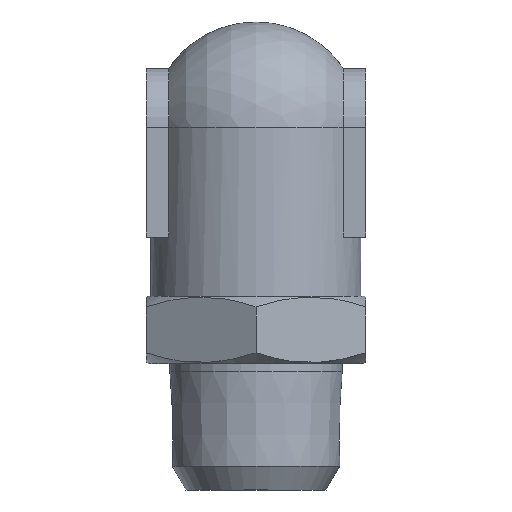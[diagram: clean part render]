
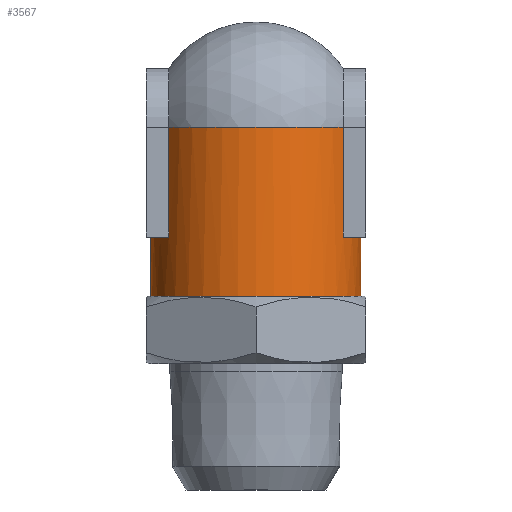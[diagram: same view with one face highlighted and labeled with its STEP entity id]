
A CAD part, left-side view. The second image highlights one B-rep face of the part: STEP entity #3567.
In plain terms, the highlighted cylindrical face has radius 6.25 mm (diameter 12.5 mm), a full revolution.
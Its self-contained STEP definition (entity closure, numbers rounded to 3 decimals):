
#25=(
BOUNDED_CURVE()
B_SPLINE_CURVE(3,(#2653,#2654,#2655,#2656,#2657,#2658,#2659,#2660,#2661,
#2662,#2663,#2664,#2665,#2666,#2667,#2668,#2669,#2670,#2671,#2672,#2673,
#2674,#2675,#2676,#2677,#2678,#2679,#2680,#2681,#2682,#2683,#2684,#2685,
#2686,#2687,#2688,#2689,#2690,#2691,#2692),.UNSPECIFIED.,.U.,.U.)
B_SPLINE_CURVE_WITH_KNOTS((4,1,1,1,1,1,1,1,1,1,1,1,1,1,1,1,1,1,1,1,1,1,
1,1,1,1,1,1,1,1,1,1,1,1,1,1,1,4),(0.216,0.225,0.246,
0.266,0.286,0.305,0.323,
0.34,0.357,0.373,0.388,
0.403,0.418,0.432,0.446,0.459,
0.473,0.486,0.5,0.5,
0.514,0.527,0.541,0.554,
0.568,0.582,0.597,0.612,
0.627,0.643,0.66,0.677,
0.695,0.714,0.734,0.754,
0.775,0.784),.UNSPECIFIED.)
CURVE()
GEOMETRIC_REPRESENTATION_ITEM()
RATIONAL_B_SPLINE_CURVE((1.,1.,1.,1.,1.,1.,1.,1.,1.,1.,1.,1.,1.,1.,1.,1.,
1.,1.,1.,1.,1.,1.,1.,1.,1.,1.,1.,1.,1.,1.,1.,1.,1.,1.,1.,1.,1.,1.,1.,1.))
REPRESENTATION_ITEM('')
);
#32=VECTOR('',#2296,1.);
#33=VECTOR('',#2299,1.);
#34=VECTOR('',#2304,1.);
#35=VECTOR('',#2307,1.);
#72=LINE('',#2638,#32);
#73=LINE('',#2642,#33);
#74=LINE('',#2648,#34);
#75=LINE('',#2652,#35);
#1461=ORIENTED_EDGE('',*,*,#1853,.F.);
#1462=ORIENTED_EDGE('',*,*,#1854,.F.);
#1463=ORIENTED_EDGE('',*,*,#1855,.F.);
#1464=ORIENTED_EDGE('',*,*,#1856,.F.);
#1465=ORIENTED_EDGE('',*,*,#1857,.F.);
#1466=ORIENTED_EDGE('',*,*,#1858,.F.);
#1467=ORIENTED_EDGE('',*,*,#1859,.F.);
#1468=ORIENTED_EDGE('',*,*,#1860,.F.);
#1469=ORIENTED_EDGE('',*,*,#1861,.F.);
#1470=ORIENTED_EDGE('',*,*,#1851,.T.);
#1689=CIRCLE('',#3403,6.25);
#1691=CIRCLE('',#3406,6.25);
#1692=CIRCLE('',#3407,6.25);
#1693=CIRCLE('',#3408,6.25);
#1694=CIRCLE('',#3409,6.25);
#1752=VERTEX_POINT('',#2631);
#1754=VERTEX_POINT('',#2636);
#1755=VERTEX_POINT('',#2637);
#1756=VERTEX_POINT('',#2639);
#1757=VERTEX_POINT('',#2641);
#1758=VERTEX_POINT('',#2643);
#1759=VERTEX_POINT('',#2645);
#1760=VERTEX_POINT('',#2647);
#1761=VERTEX_POINT('',#2649);
#1762=VERTEX_POINT('',#2651);
#1851=EDGE_CURVE('',#1752,#1752,#1689,.T.);
#1853=EDGE_CURVE('',#1754,#1755,#72,.T.);
#1854=EDGE_CURVE('',#1756,#1754,#1691,.T.);
#1855=EDGE_CURVE('',#1757,#1756,#73,.T.);
#1856=EDGE_CURVE('',#1758,#1757,#1692,.T.);
#1857=EDGE_CURVE('',#1759,#1758,#1693,.T.);
#1858=EDGE_CURVE('',#1760,#1759,#74,.T.);
#1859=EDGE_CURVE('',#1761,#1760,#1694,.T.);
#1860=EDGE_CURVE('',#1762,#1761,#75,.T.);
#1861=EDGE_CURVE('',#1755,#1762,#25,.T.);
#1989=EDGE_LOOP('',(#1461,#1462,#1463,#1464,#1465,#1466,#1467,#1468,#1469));
#1990=EDGE_LOOP('',(#1470));
#2123=FACE_BOUND('',#1989,.T.);
#2124=FACE_BOUND('',#1990,.T.);
#2290=DIRECTION('',(0.,1.,0.));
#2291=DIRECTION('',(0.,0.,6.25));
#2294=DIRECTION('',(0.,-1.,0.));
#2295=DIRECTION('',(-1.,0.,0.));
#2296=DIRECTION('',(0.,2.72,0.));
#2297=DIRECTION('',(0.,1.,0.));
#2298=DIRECTION('',(0.,0.,-6.25));
#2299=DIRECTION('',(0.,-6.5,0.));
#2300=DIRECTION('',(0.,1.,0.));
#2301=DIRECTION('',(0.,0.,6.25));
#2302=DIRECTION('',(0.,1.,0.));
#2303=DIRECTION('',(0.,0.,6.25));
#2304=DIRECTION('',(0.,6.5,0.));
#2305=DIRECTION('',(0.,1.,0.));
#2306=DIRECTION('',(0.,0.,-6.25));
#2307=DIRECTION('',(0.,-2.72,0.));
#2631=CARTESIAN_POINT('',(28.838,24.73,0.));
#2632=CARTESIAN_POINT('',(35.088,24.73,0.));
#2635=CARTESIAN_POINT('',(35.088,34.73,0.));
#2636=CARTESIAN_POINT('',(38.588,28.23,5.178));
#2637=CARTESIAN_POINT('',(38.588,30.95,5.178));
#2638=CARTESIAN_POINT('',(38.588,28.23,5.178));
#2639=CARTESIAN_POINT('',(31.588,28.23,5.178));
#2640=CARTESIAN_POINT('',(35.088,28.23,0.));
#2641=CARTESIAN_POINT('',(31.588,34.73,5.178));
#2642=CARTESIAN_POINT('',(31.588,34.73,5.178));
#2643=CARTESIAN_POINT('',(28.838,34.73,0.));
#2644=CARTESIAN_POINT('',(35.088,34.73,0.));
#2645=CARTESIAN_POINT('',(31.588,34.73,-5.178));
#2646=CARTESIAN_POINT('',(35.088,34.73,0.));
#2647=CARTESIAN_POINT('',(31.588,28.23,-5.178));
#2648=CARTESIAN_POINT('',(31.588,28.23,-5.178));
#2649=CARTESIAN_POINT('',(38.588,28.23,-5.178));
#2650=CARTESIAN_POINT('',(35.088,28.23,0.));
#2651=CARTESIAN_POINT('',(38.588,30.95,-5.178));
#2652=CARTESIAN_POINT('',(38.588,30.95,-5.178));
#2653=CARTESIAN_POINT('',(38.588,30.95,5.178));
#2654=CARTESIAN_POINT('',(38.633,30.902,5.148));
#2655=CARTESIAN_POINT('',(38.782,30.741,5.044));
#2656=CARTESIAN_POINT('',(39.028,30.475,4.856));
#2657=CARTESIAN_POINT('',(39.318,30.162,4.606));
#2658=CARTESIAN_POINT('',(39.588,29.87,4.343));
#2659=CARTESIAN_POINT('',(39.838,29.6,4.068));
#2660=CARTESIAN_POINT('',(40.067,29.352,3.783));
#2661=CARTESIAN_POINT('',(40.277,29.126,3.489));
#2662=CARTESIAN_POINT('',(40.467,28.921,3.189));
#2663=CARTESIAN_POINT('',(40.637,28.738,2.883));
#2664=CARTESIAN_POINT('',(40.787,28.575,2.573));
#2665=CARTESIAN_POINT('',(40.918,28.433,2.259));
#2666=CARTESIAN_POINT('',(41.031,28.311,1.943));
#2667=CARTESIAN_POINT('',(41.126,28.209,1.625));
#2668=CARTESIAN_POINT('',(41.203,28.126,1.306));
#2669=CARTESIAN_POINT('',(41.262,28.062,0.986));
#2670=CARTESIAN_POINT('',(41.305,28.015,0.664));
#2671=CARTESIAN_POINT('',(41.331,27.987,0.339));
#2672=CARTESIAN_POINT('',(41.338,27.98,0.114));
#2673=CARTESIAN_POINT('',(41.338,27.98,-0.114));
#2674=CARTESIAN_POINT('',(41.331,27.987,-0.339));
#2675=CARTESIAN_POINT('',(41.305,28.015,-0.664));
#2676=CARTESIAN_POINT('',(41.262,28.062,-0.986));
#2677=CARTESIAN_POINT('',(41.203,28.126,-1.306));
#2678=CARTESIAN_POINT('',(41.126,28.209,-1.625));
#2679=CARTESIAN_POINT('',(41.031,28.311,-1.943));
#2680=CARTESIAN_POINT('',(40.918,28.433,-2.259));
#2681=CARTESIAN_POINT('',(40.787,28.575,-2.573));
#2682=CARTESIAN_POINT('',(40.637,28.738,-2.883));
#2683=CARTESIAN_POINT('',(40.467,28.921,-3.189));
#2684=CARTESIAN_POINT('',(40.277,29.126,-3.489));
#2685=CARTESIAN_POINT('',(40.067,29.352,-3.783));
#2686=CARTESIAN_POINT('',(39.838,29.6,-4.068));
#2687=CARTESIAN_POINT('',(39.588,29.87,-4.343));
#2688=CARTESIAN_POINT('',(39.318,30.162,-4.606));
#2689=CARTESIAN_POINT('',(39.028,30.475,-4.856));
#2690=CARTESIAN_POINT('',(38.782,30.741,-5.044));
#2691=CARTESIAN_POINT('',(38.633,30.902,-5.148));
#2692=CARTESIAN_POINT('',(38.588,30.95,-5.178));
#3403=AXIS2_PLACEMENT_3D('',#2632,#2290,#2291);
#3405=AXIS2_PLACEMENT_3D('',#2635,#2294,#2295);
#3406=AXIS2_PLACEMENT_3D('',#2640,#2297,#2298);
#3407=AXIS2_PLACEMENT_3D('',#2644,#2300,#2301);
#3408=AXIS2_PLACEMENT_3D('',#2646,#2302,#2303);
#3409=AXIS2_PLACEMENT_3D('',#2650,#2305,#2306);
#3535=CYLINDRICAL_SURFACE('',#3405,6.25);
#3567=ADVANCED_FACE('',(#2123,#2124),#3535,.T.);
